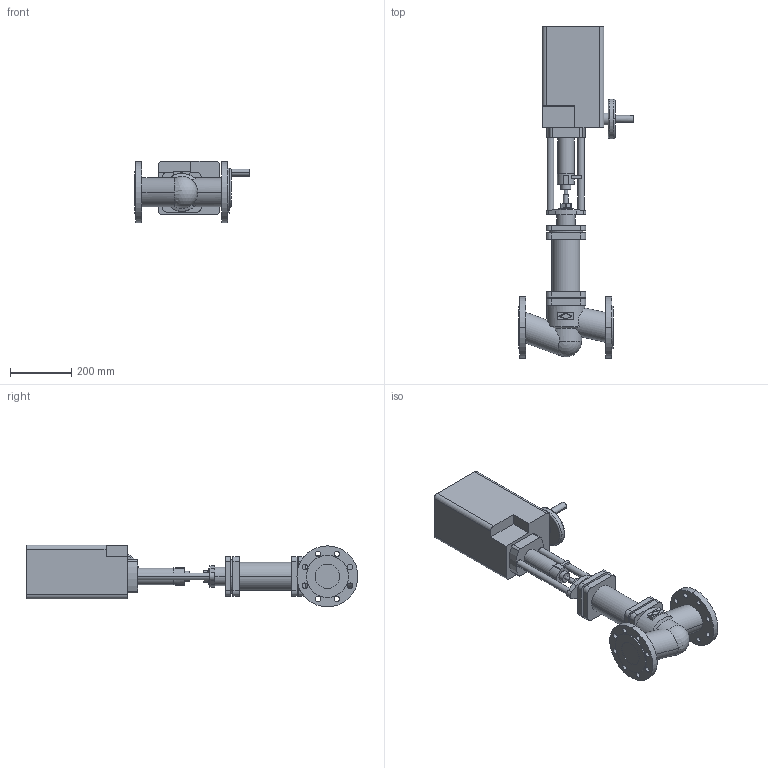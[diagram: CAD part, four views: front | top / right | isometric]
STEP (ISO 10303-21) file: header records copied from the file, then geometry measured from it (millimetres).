
FILE_DESCRIPTION( ( '' ), '1' );
FILE_NAME( 'F:/DE-SHS/TB/OR/04-Sonstiges/daten/files_3d/441-PN16-PREMIO/c000002072.stp', '2013-06-20T10:45:44', ( '' ), ( '' ), ' ', ' ', ' ' );
FILE_SCHEMA( ( 'CONFIG_CONTROL_DESIGN' ) );
Length unit declared in the file: millimetre
Products named in the file (2): 1; 2
Bounding box: 376.5 x 1087.2 x 202.5 mm (x, y, z)
Volume: 19648664.4 mm3; surface area: 865457.6 mm2
Topology: 2 solids, 2 shells, 230 faces, 582 edges, 387 vertices
Faces by surface type: cylinder 120, plane 103, torus 4, cone 2, sphere 1
Entity records: 7672 total; most frequent: CARTESIAN_POINT 1727, DIRECTION 1298, ORIENTED_EDGE 1160, EDGE_CURVE 580, AXIS2_PLACEMENT_3D 500, VERTEX_POINT 387, LINE 298, VECTOR 298
